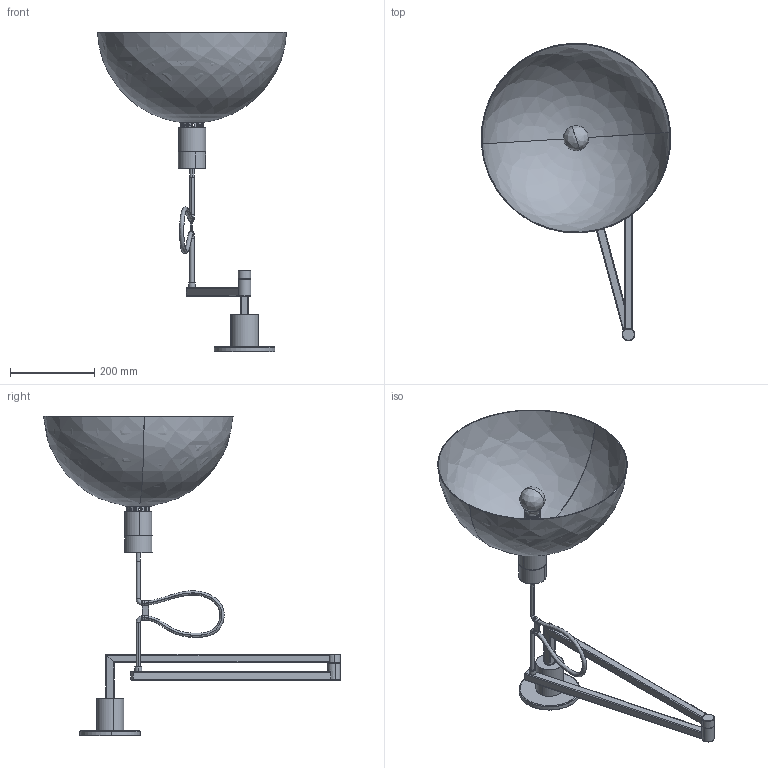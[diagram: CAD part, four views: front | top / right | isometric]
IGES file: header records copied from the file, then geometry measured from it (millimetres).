
Start section: SolidWorks IGES file using analytic representation for surfaces
Global section: file name: C:\Users\tungari.NEMOLIGHTING\Desktop\3D\PENDANT\3D_AS41C - Copia\DEFEATURE_3D_AS41Z\3D_AS41Z.IGS; native system: SolidWorks 2016; preprocessor: SolidWorks 2016; author: tungari; date: 180222.150600; units: millimetre
Bounding box: 449.27 x 703.93 x 757.14 mm (x, y, z)
Surface area: 857849.1 mm2 (no closed solid volume)
Topology: 0 solids, 0 shells, 214 faces, 5364 edges, 5362 vertices
Faces by surface type: revolution 139, bspline 75
